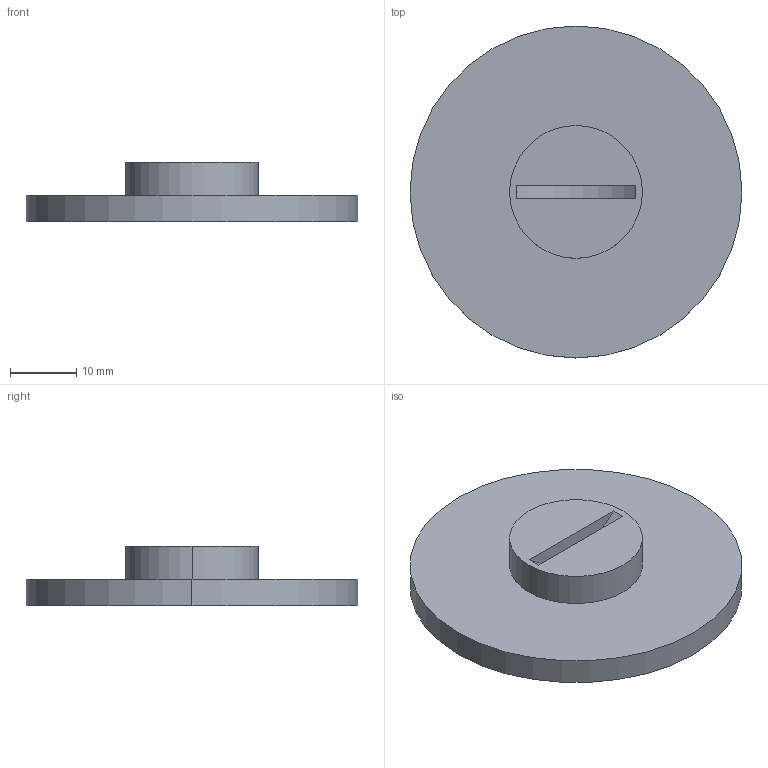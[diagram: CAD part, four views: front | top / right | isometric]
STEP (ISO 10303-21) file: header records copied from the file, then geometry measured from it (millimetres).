
FILE_DESCRIPTION (( 'STEP AP203' ), '1' );
FILE_NAME ('Thumb Turn Lock Side 2.STEP', '2016-10-12T15:30:38', ( '' ), ( '' ), 'SwSTEP 2.0', 'SolidWorks 2014', '' );
FILE_SCHEMA (( 'CONFIG_CONTROL_DESIGN' ));
Length unit declared in the file: millimetre
Products named in the file (1): Thumb Turn Lock Side 2
Bounding box: 50 x 50 x 9 mm (x, y, z)
Volume: 9332.3 mm3; surface area: 4965.9 mm2
Topology: 1 solids, 1 shells, 10 faces, 18 edges, 12 vertices
Faces by surface type: cylinder 5, plane 5
Entity records: 329 total; most frequent: DIRECTION 50, CARTESIAN_POINT 41, ORIENTED_EDGE 36, AXIS2_PLACEMENT_3D 21, EDGE_CURVE 18, VERTEX_POINT 12, EDGE_LOOP 12, FACE_OUTER_BOUND 10
